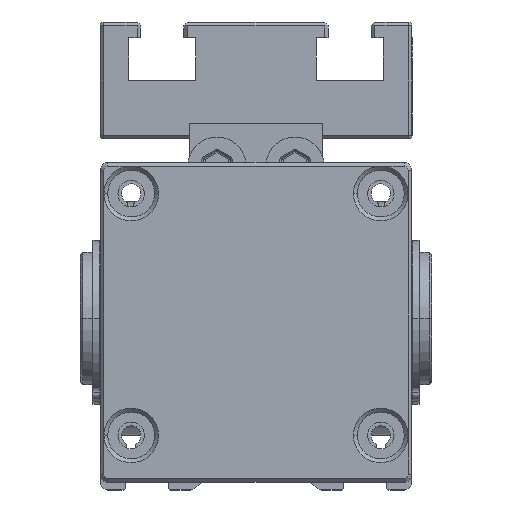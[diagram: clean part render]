
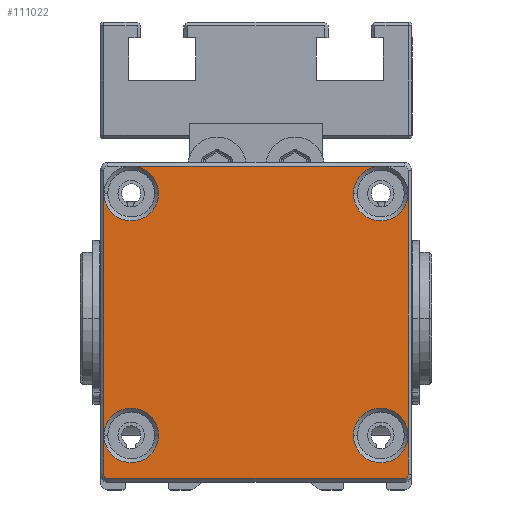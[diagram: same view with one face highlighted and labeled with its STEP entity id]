
A CAD part, front view. The second image highlights one B-rep face of the part: STEP entity #111022.
In plain terms, the highlighted planar face has unit normal (0, -1, 0) as drawn and (0, 0, 1) by its records, which use the part's own axes.
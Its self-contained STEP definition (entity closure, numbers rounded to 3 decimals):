
#1205 = ORIENTED_EDGE ( 'NONE', *, *, #147282, .F. ) ;
#1348 = EDGE_CURVE ( 'NONE', #100030, #133334, #124330, .T. ) ;
#3107 = EDGE_CURVE ( 'NONE', #121718, #92494, #24749, .T. ) ;
#4176 = DIRECTION ( 'NONE',  ( 1., 0., 0. ) ) ;
#4204 = CARTESIAN_POINT ( 'NONE',  ( 16., 7., 346. ) ) ;
#4210 = EDGE_CURVE ( 'NONE', #92494, #121718, #146919, .T. ) ;
#4313 = CARTESIAN_POINT ( 'NONE',  ( 19.5, 4.5, 346. ) ) ;
#5551 = VERTEX_POINT ( 'NONE', #64649 ) ;
#6058 = LINE ( 'NONE', #91148, #31265 ) ;
#7347 = AXIS2_PLACEMENT_3D ( 'NONE', #155797, #95565, #83640 ) ;
#7899 = VERTEX_POINT ( 'NONE', #21264 ) ;
#9607 = EDGE_CURVE ( 'NONE', #92494, #51722, #108478, .T. ) ;
#9888 = EDGE_CURVE ( 'NONE', #36103, #5551, #21815, .T. ) ;
#10419 = CARTESIAN_POINT ( 'NONE',  ( -16., 7., 346. ) ) ;
#10906 = CARTESIAN_POINT ( 'NONE',  ( -12.5, 7., 346. ) ) ;
#14699 = CARTESIAN_POINT ( 'NONE',  ( 0., 1.5, 346. ) ) ;
#14780 = AXIS2_PLACEMENT_3D ( 'NONE', #18951, #67479, #115958 ) ;
#15287 = CARTESIAN_POINT ( 'NONE',  ( 0., 1., 346. ) ) ;
#18951 = CARTESIAN_POINT ( 'NONE',  ( -16., 38., 346. ) ) ;
#19107 = CIRCLE ( 'NONE', #57313, 3.5 ) ;
#19316 = DIRECTION ( 'NONE',  ( 0., 0., 1. ) ) ;
#21264 = CARTESIAN_POINT ( 'NONE',  ( 12.5, 7., 346. ) ) ;
#21815 = CIRCLE ( 'NONE', #135870, 3.5 ) ;
#23173 = DIRECTION ( 'NONE',  ( 0., 0., 1. ) ) ;
#23929 = CARTESIAN_POINT ( 'NONE',  ( 16., 38., 346. ) ) ;
#24244 = CARTESIAN_POINT ( 'NONE',  ( -19.5, 7., 346. ) ) ;
#24749 = CIRCLE ( 'NONE', #55244, 3.5 ) ;
#25041 = DIRECTION ( 'NONE',  ( 1., 0., 0. ) ) ;
#25723 = VERTEX_POINT ( 'NONE', #130671 ) ;
#30340 = FACE_OUTER_BOUND ( 'NONE', #104625, .T. ) ;
#31265 = VECTOR ( 'NONE', #152974, 1000. ) ;
#31738 = DIRECTION ( 'NONE',  ( 1., 0., 0. ) ) ;
#32838 = DIRECTION ( 'NONE',  ( 0., 0., 1. ) ) ;
#32893 = CARTESIAN_POINT ( 'NONE',  ( -12.5, 38., 346. ) ) ;
#33317 = DIRECTION ( 'NONE',  ( 0., 0., 1. ) ) ;
#35480 = VERTEX_POINT ( 'NONE', #105064 ) ;
#36103 = VERTEX_POINT ( 'NONE', #60704 ) ;
#39104 = AXIS2_PLACEMENT_3D ( 'NONE', #140514, #33317, #31738 ) ;
#40339 = ORIENTED_EDGE ( 'NONE', *, *, #107823, .F. ) ;
#42719 = CIRCLE ( 'NONE', #14780, 3.5 ) ;
#43526 = ORIENTED_EDGE ( 'NONE', *, *, #9607, .F. ) ;
#44219 = EDGE_CURVE ( 'NONE', #133334, #7899, #98771, .T. ) ;
#48027 = DIRECTION ( 'NONE',  ( 0., 1., 0. ) ) ;
#49134 = CARTESIAN_POINT ( 'NONE',  ( 16., 41.5, 346. ) ) ;
#50242 = CARTESIAN_POINT ( 'NONE',  ( 19., 1.5, 346. ) ) ;
#51124 = DIRECTION ( 'NONE',  ( 0., 0., 1. ) ) ;
#51722 = VERTEX_POINT ( 'NONE', #63369 ) ;
#52300 = EDGE_CURVE ( 'NONE', #64220, #35480, #42719, .T. ) ;
#52356 = EDGE_CURVE ( 'NONE', #35480, #59530, #107185, .T. ) ;
#55244 = AXIS2_PLACEMENT_3D ( 'NONE', #10419, #105891, #152649 ) ;
#56627 = CIRCLE ( 'NONE', #125104, 0.5 ) ;
#56719 = CARTESIAN_POINT ( 'NONE',  ( -16., 38., 346. ) ) ;
#56726 = AXIS2_PLACEMENT_3D ( 'NONE', #15287, #51124, #4176 ) ;
#57313 = AXIS2_PLACEMENT_3D ( 'NONE', #56719, #32838, #106011 ) ;
#58279 = VECTOR ( 'NONE', #145603, 1000. ) ;
#59530 = VERTEX_POINT ( 'NONE', #49134 ) ;
#59810 = CARTESIAN_POINT ( 'NONE',  ( 19.5, 2., 346. ) ) ;
#59933 = ORIENTED_EDGE ( 'NONE', *, *, #4210, .F. ) ;
#60704 = CARTESIAN_POINT ( 'NONE',  ( 12.5, 38., 346. ) ) ;
#61717 = VECTOR ( 'NONE', #136974, 1000. ) ;
#62768 = EDGE_CURVE ( 'NONE', #51722, #64220, #19107, .T. ) ;
#63369 = CARTESIAN_POINT ( 'NONE',  ( -19.5, 38., 346. ) ) ;
#64220 = VERTEX_POINT ( 'NONE', #32893 ) ;
#64649 = CARTESIAN_POINT ( 'NONE',  ( 19.5, 38., 346. ) ) ;
#66150 = CIRCLE ( 'NONE', #73812, 3.5 ) ;
#66716 = ORIENTED_EDGE ( 'NONE', *, *, #110678, .T. ) ;
#66750 = DIRECTION ( 'NONE',  ( 0., 0., -1. ) ) ;
#67292 = DIRECTION ( 'NONE',  ( -1., 0., 0. ) ) ;
#67479 = DIRECTION ( 'NONE',  ( 0., 0., 1. ) ) ;
#69694 = CIRCLE ( 'NONE', #39104, 3.5 ) ;
#70355 = ORIENTED_EDGE ( 'NONE', *, *, #52300, .F. ) ;
#70977 = AXIS2_PLACEMENT_3D ( 'NONE', #129412, #66750, #127853 ) ;
#73812 = AXIS2_PLACEMENT_3D ( 'NONE', #4204, #144247, #25041 ) ;
#74252 = LINE ( 'NONE', #88516, #58279 ) ;
#75233 = LINE ( 'NONE', #14699, #61717 ) ;
#75483 = VERTEX_POINT ( 'NONE', #50242 ) ;
#78485 = CARTESIAN_POINT ( 'NONE',  ( -19., 2., 346. ) ) ;
#83640 = DIRECTION ( 'NONE',  ( 1., 0., 0. ) ) ;
#84754 = ORIENTED_EDGE ( 'NONE', *, *, #52356, .F. ) ;
#88516 = CARTESIAN_POINT ( 'NONE',  ( -19.5, 4.5, 346. ) ) ;
#90173 = DIRECTION ( 'NONE',  ( 0., 1., 0. ) ) ;
#91148 = CARTESIAN_POINT ( 'NONE',  ( 19.5, 22.5, 346. ) ) ;
#92494 = VERTEX_POINT ( 'NONE', #24244 ) ;
#95565 = DIRECTION ( 'NONE',  ( 0., 0., 1. ) ) ;
#97593 = CARTESIAN_POINT ( 'NONE',  ( 0., 41.5, 346. ) ) ;
#98771 = CIRCLE ( 'NONE', #101372, 3.5 ) ;
#100030 = VERTEX_POINT ( 'NONE', #59810 ) ;
#101372 = AXIS2_PLACEMENT_3D ( 'NONE', #151929, #19316, #137662 ) ;
#104625 = EDGE_LOOP ( 'NONE', ( #43526, #127842, #59933, #138785, #121247, #66716, #40339, #135034, #1205, #150248, #137278, #141463, #119868, #84754, #70355, #113222 ) ) ;
#105064 = CARTESIAN_POINT ( 'NONE',  ( -16., 41.5, 346. ) ) ;
#105891 = DIRECTION ( 'NONE',  ( 0., 0., 1. ) ) ;
#106011 = DIRECTION ( 'NONE',  ( 1., 0., 0. ) ) ;
#107185 = LINE ( 'NONE', #97593, #133998 ) ;
#107823 = EDGE_CURVE ( 'NONE', #100030, #75483, #139292, .T. ) ;
#107945 = VECTOR ( 'NONE', #90173, 1000. ) ;
#107998 = VECTOR ( 'NONE', #48027, 1000. ) ;
#108478 = LINE ( 'NONE', #156803, #107998 ) ;
#109769 = EDGE_CURVE ( 'NONE', #25723, #112101, #56627, .T. ) ;
#110678 = EDGE_CURVE ( 'NONE', #25723, #75483, #75233, .T. ) ;
#111022 = ADVANCED_FACE ( 'NONE', ( #30340 ), #112288, .T. ) ;
#111372 = EDGE_CURVE ( 'NONE', #59530, #36103, #69694, .T. ) ;
#112101 = VERTEX_POINT ( 'NONE', #119587 ) ;
#112288 = PLANE ( 'NONE',  #56726 ) ;
#113222 = ORIENTED_EDGE ( 'NONE', *, *, #62768, .F. ) ;
#115958 = DIRECTION ( 'NONE',  ( 1., 0., 0. ) ) ;
#118301 = DIRECTION ( 'NONE',  ( 1., 0., 0. ) ) ;
#119587 = CARTESIAN_POINT ( 'NONE',  ( -19.5, 2., 346. ) ) ;
#119868 = ORIENTED_EDGE ( 'NONE', *, *, #111372, .F. ) ;
#121247 = ORIENTED_EDGE ( 'NONE', *, *, #109769, .F. ) ;
#121718 = VERTEX_POINT ( 'NONE', #10906 ) ;
#124330 = LINE ( 'NONE', #4313, #107945 ) ;
#125104 = AXIS2_PLACEMENT_3D ( 'NONE', #78485, #127607, #67292 ) ;
#126874 = EDGE_CURVE ( 'NONE', #112101, #92494, #74252, .T. ) ;
#127607 = DIRECTION ( 'NONE',  ( 0., 0., -1. ) ) ;
#127842 = ORIENTED_EDGE ( 'NONE', *, *, #3107, .F. ) ;
#127853 = DIRECTION ( 'NONE',  ( -1., 0., 0. ) ) ;
#129412 = CARTESIAN_POINT ( 'NONE',  ( 19., 2., 346. ) ) ;
#130453 = EDGE_CURVE ( 'NONE', #133334, #5551, #6058, .T. ) ;
#130671 = CARTESIAN_POINT ( 'NONE',  ( -19., 1.5, 346. ) ) ;
#133334 = VERTEX_POINT ( 'NONE', #135622 ) ;
#133998 = VECTOR ( 'NONE', #118301, 1000. ) ;
#135034 = ORIENTED_EDGE ( 'NONE', *, *, #1348, .T. ) ;
#135622 = CARTESIAN_POINT ( 'NONE',  ( 19.5, 7., 346. ) ) ;
#135870 = AXIS2_PLACEMENT_3D ( 'NONE', #23929, #23173, #143125 ) ;
#136974 = DIRECTION ( 'NONE',  ( 1., 0., 0. ) ) ;
#137278 = ORIENTED_EDGE ( 'NONE', *, *, #130453, .T. ) ;
#137662 = DIRECTION ( 'NONE',  ( 1., 0., 0. ) ) ;
#138785 = ORIENTED_EDGE ( 'NONE', *, *, #126874, .F. ) ;
#139292 = CIRCLE ( 'NONE', #70977, 0.5 ) ;
#140514 = CARTESIAN_POINT ( 'NONE',  ( 16., 38., 346. ) ) ;
#141463 = ORIENTED_EDGE ( 'NONE', *, *, #9888, .F. ) ;
#143125 = DIRECTION ( 'NONE',  ( 1., 0., 0. ) ) ;
#144247 = DIRECTION ( 'NONE',  ( 0., 0., 1. ) ) ;
#145603 = DIRECTION ( 'NONE',  ( 0., 1., 0. ) ) ;
#146919 = CIRCLE ( 'NONE', #7347, 3.5 ) ;
#147282 = EDGE_CURVE ( 'NONE', #7899, #133334, #66150, .T. ) ;
#150248 = ORIENTED_EDGE ( 'NONE', *, *, #44219, .F. ) ;
#151929 = CARTESIAN_POINT ( 'NONE',  ( 16., 7., 346. ) ) ;
#152649 = DIRECTION ( 'NONE',  ( 1., 0., 0. ) ) ;
#152974 = DIRECTION ( 'NONE',  ( 0., 1., 0. ) ) ;
#155797 = CARTESIAN_POINT ( 'NONE',  ( -16., 7., 346. ) ) ;
#156803 = CARTESIAN_POINT ( 'NONE',  ( -19.5, 22.5, 346. ) ) ;
